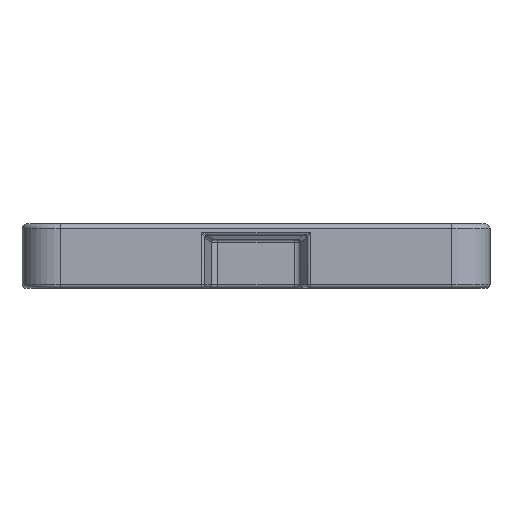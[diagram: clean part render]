
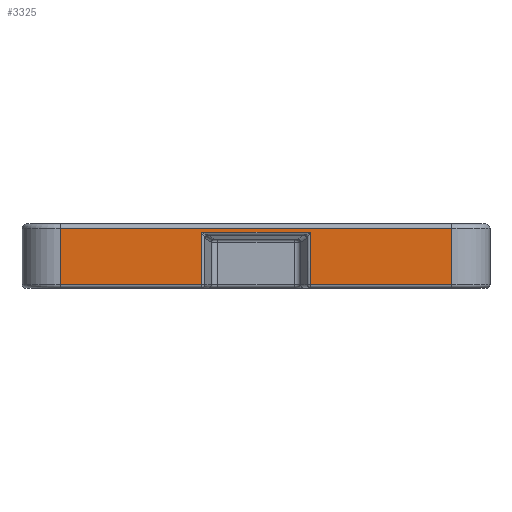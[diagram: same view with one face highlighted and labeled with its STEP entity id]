
A CAD part, left-side view. The second image highlights one B-rep face of the part: STEP entity #3325.
In plain terms, the highlighted planar face has unit normal (-1, 0, 0).
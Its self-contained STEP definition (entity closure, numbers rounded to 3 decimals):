
#43 = FACE_OUTER_BOUND ( 'NONE', #927, .T. ) ;
#57 = CARTESIAN_POINT ( 'NONE',  ( 0., -16.911, 0. ) ) ;
#69 = CARTESIAN_POINT ( 'NONE',  ( 0., 61., 18.5 ) ) ;
#93 = CARTESIAN_POINT ( 'NONE',  ( 0., 61., 18.5 ) ) ;
#124 = DIRECTION ( 'NONE',  ( 0., 1., 0. ) ) ;
#480 = CARTESIAN_POINT ( 'NONE',  ( 0., 16.911, 1. ) ) ;
#734 = ORIENTED_EDGE ( 'NONE', *, *, #4785, .T. ) ;
#744 = VERTEX_POINT ( 'NONE', #480 ) ;
#927 = EDGE_LOOP ( 'NONE', ( #4442, #11071, #4415, #3561, #1888, #8211, #8307, #734 ) ) ;
#1888 = ORIENTED_EDGE ( 'NONE', *, *, #4534, .T. ) ;
#2384 = VECTOR ( 'NONE', #3795, 1000. ) ;
#2812 = LINE ( 'NONE', #69, #9543 ) ;
#3018 = VERTEX_POINT ( 'NONE', #93 ) ;
#3033 = AXIS2_PLACEMENT_3D ( 'NONE', #5580, #5656, #5669 ) ;
#3062 = LINE ( 'NONE', #5393, #7527 ) ;
#3325 = ADVANCED_FACE ( 'NONE', ( #43 ), #5541, .F. ) ;
#3561 = ORIENTED_EDGE ( 'NONE', *, *, #5523, .T. ) ;
#3562 = EDGE_CURVE ( 'NONE', #6090, #6947, #6691, .T. ) ;
#3716 = VERTEX_POINT ( 'NONE', #7516 ) ;
#3795 = DIRECTION ( 'NONE',  ( 0., -1., 0. ) ) ;
#3824 = CARTESIAN_POINT ( 'NONE',  ( 0., 73., 1. ) ) ;
#3961 = DIRECTION ( 'NONE',  ( 0., 0., -1. ) ) ;
#4084 = LINE ( 'NONE', #7986, #8374 ) ;
#4156 = CARTESIAN_POINT ( 'NONE',  ( 0., 73., 1. ) ) ;
#4415 = ORIENTED_EDGE ( 'NONE', *, *, #3562, .T. ) ;
#4442 = ORIENTED_EDGE ( 'NONE', *, *, #5561, .T. ) ;
#4534 = EDGE_CURVE ( 'NONE', #3018, #7229, #10409, .T. ) ;
#4644 = DIRECTION ( 'NONE',  ( 0., -1., 0. ) ) ;
#4785 = EDGE_CURVE ( 'NONE', #6364, #3716, #4084, .T. ) ;
#5338 = LINE ( 'NONE', #57, #9432 ) ;
#5377 = DIRECTION ( 'NONE',  ( 0., 0., 1. ) ) ;
#5393 = CARTESIAN_POINT ( 'NONE',  ( 0., 16.911, 16.611 ) ) ;
#5523 = EDGE_CURVE ( 'NONE', #6947, #3018, #2812, .T. ) ;
#5541 = PLANE ( 'NONE',  #3033 ) ;
#5561 = EDGE_CURVE ( 'NONE', #3716, #9701, #5338, .T. ) ;
#5571 = EDGE_CURVE ( 'NONE', #9701, #6090, #7295, .T. ) ;
#5580 = CARTESIAN_POINT ( 'NONE',  ( 0., 73., 20. ) ) ;
#5656 = DIRECTION ( 'NONE',  ( 1., 0., 0. ) ) ;
#5669 = DIRECTION ( 'NONE',  ( 0., 1., 0. ) ) ;
#6090 = VERTEX_POINT ( 'NONE', #6115 ) ;
#6115 = CARTESIAN_POINT ( 'NONE',  ( 0., -61., 1. ) ) ;
#6269 = CARTESIAN_POINT ( 'NONE',  ( 0., 16.911, 17.45 ) ) ;
#6364 = VERTEX_POINT ( 'NONE', #6269 ) ;
#6452 = CARTESIAN_POINT ( 'NONE',  ( 0., -61., 18.5 ) ) ;
#6691 = LINE ( 'NONE', #8848, #8941 ) ;
#6907 = EDGE_CURVE ( 'NONE', #7229, #744, #11048, .T. ) ;
#6947 = VERTEX_POINT ( 'NONE', #6452 ) ;
#7194 = CARTESIAN_POINT ( 'NONE',  ( 0., 61., 20. ) ) ;
#7229 = VERTEX_POINT ( 'NONE', #9678 ) ;
#7269 = DIRECTION ( 'NONE',  ( 0., 0., -1. ) ) ;
#7295 = LINE ( 'NONE', #3824, #2384 ) ;
#7516 = CARTESIAN_POINT ( 'NONE',  ( 0., -16.911, 17.45 ) ) ;
#7527 = VECTOR ( 'NONE', #5377, 1000. ) ;
#7986 = CARTESIAN_POINT ( 'NONE',  ( 0., -16.144, 17.45 ) ) ;
#8093 = DIRECTION ( 'NONE',  ( 0., -1., 0. ) ) ;
#8211 = ORIENTED_EDGE ( 'NONE', *, *, #6907, .T. ) ;
#8257 = VECTOR ( 'NONE', #7269, 1000. ) ;
#8277 = EDGE_CURVE ( 'NONE', #744, #6364, #3062, .T. ) ;
#8307 = ORIENTED_EDGE ( 'NONE', *, *, #8277, .T. ) ;
#8374 = VECTOR ( 'NONE', #8093, 1000. ) ;
#8848 = CARTESIAN_POINT ( 'NONE',  ( 0., -61., 20. ) ) ;
#8871 = DIRECTION ( 'NONE',  ( 0., 0., 1. ) ) ;
#8873 = VECTOR ( 'NONE', #4644, 1000. ) ;
#8941 = VECTOR ( 'NONE', #8871, 1000. ) ;
#9432 = VECTOR ( 'NONE', #3961, 1000. ) ;
#9543 = VECTOR ( 'NONE', #124, 1000. ) ;
#9678 = CARTESIAN_POINT ( 'NONE',  ( 0., 61., 1. ) ) ;
#9701 = VERTEX_POINT ( 'NONE', #10472 ) ;
#10409 = LINE ( 'NONE', #7194, #8257 ) ;
#10472 = CARTESIAN_POINT ( 'NONE',  ( 0., -16.911, 1. ) ) ;
#11048 = LINE ( 'NONE', #4156, #8873 ) ;
#11071 = ORIENTED_EDGE ( 'NONE', *, *, #5571, .T. ) ;
